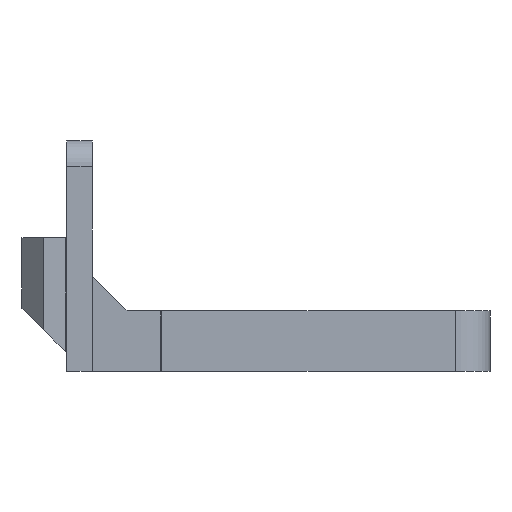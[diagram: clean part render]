
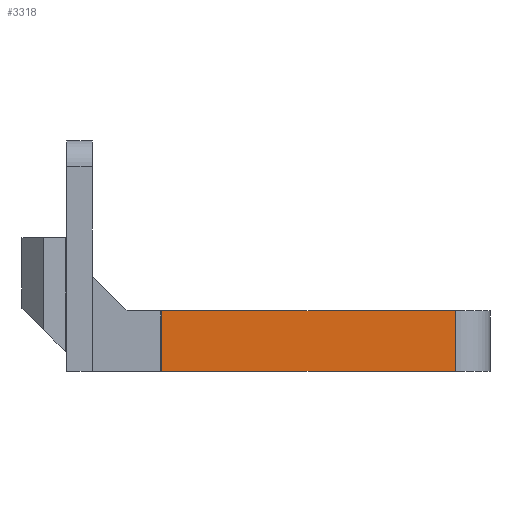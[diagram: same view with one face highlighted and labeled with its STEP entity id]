
A CAD part, front view. The second image highlights one B-rep face of the part: STEP entity #3318.
In plain terms, the highlighted planar face has unit normal (0, -1, 0).
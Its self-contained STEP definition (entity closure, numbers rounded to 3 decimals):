
#216=FACE_OUTER_BOUND('',#426,.T.);
#426=EDGE_LOOP('',(#2664,#2665,#2666,#2667));
#534=LINE('',#4835,#896);
#728=LINE('',#5370,#1090);
#729=LINE('',#5373,#1091);
#730=LINE('',#5376,#1092);
#896=VECTOR('',#3810,10.);
#1090=VECTOR('',#4374,10.);
#1091=VECTOR('',#4377,10.);
#1092=VECTOR('',#4382,10.);
#1393=VERTEX_POINT('',#4832);
#1394=VERTEX_POINT('',#4834);
#1550=VERTEX_POINT('',#5368);
#1551=VERTEX_POINT('',#5372);
#1673=EDGE_CURVE('',#1393,#1394,#534,.T.);
#1943=EDGE_CURVE('',#1550,#1393,#728,.T.);
#1944=EDGE_CURVE('',#1551,#1394,#729,.T.);
#1946=EDGE_CURVE('',#1550,#1551,#730,.F.);
#2664=ORIENTED_EDGE('',*,*,#1943,.F.);
#2665=ORIENTED_EDGE('',*,*,#1946,.T.);
#2666=ORIENTED_EDGE('',*,*,#1944,.T.);
#2667=ORIENTED_EDGE('',*,*,#1673,.F.);
#3140=PLANE('',#3632);
#3318=ADVANCED_FACE('',(#216),#3140,.T.);
#3632=AXIS2_PLACEMENT_3D('',#5375,#4380,#4381);
#3810=DIRECTION('',(-1.,0.,0.));
#4374=DIRECTION('',(0.,0.,-1.));
#4377=DIRECTION('',(0.,0.,-1.));
#4380=DIRECTION('center_axis',(0.,-1.,0.));
#4381=DIRECTION('ref_axis',(1.,0.,0.));
#4382=DIRECTION('',(1.,0.,0.));
#4832=CARTESIAN_POINT('',(141.15,-21.,-114.478));
#4834=CARTESIAN_POINT('',(107.15,-21.,-114.478));
#4835=CARTESIAN_POINT('',(141.15,-21.,-114.478));
#5368=CARTESIAN_POINT('',(141.15,-21.,-107.478));
#5370=CARTESIAN_POINT('',(141.15,-21.,-112.124));
#5372=CARTESIAN_POINT('',(107.15,-21.,-107.478));
#5373=CARTESIAN_POINT('',(107.15,-21.,-112.124));
#5375=CARTESIAN_POINT('Origin',(103.15,-21.,-112.124));
#5376=CARTESIAN_POINT('',(122.15,-21.,-107.478));
